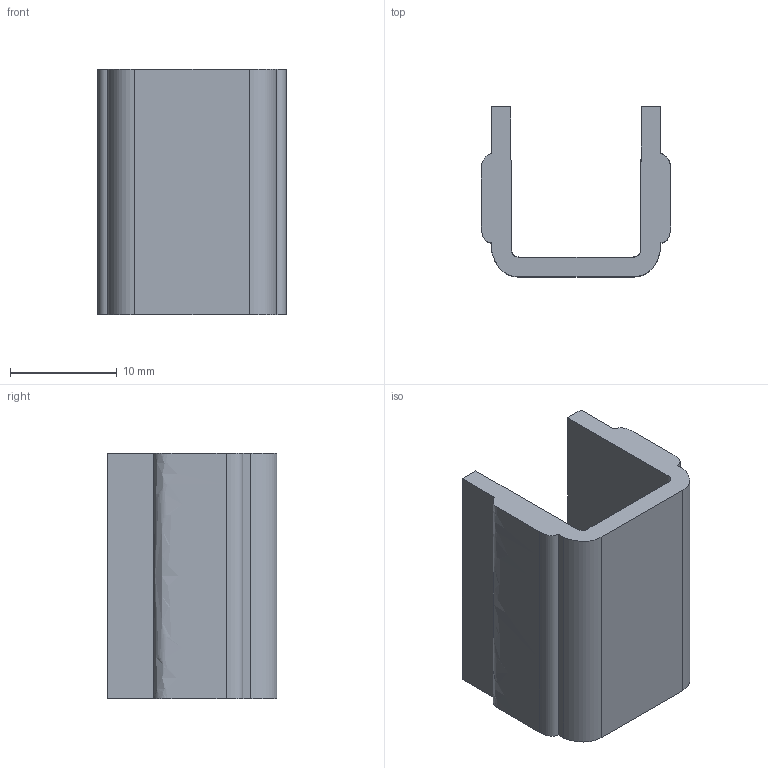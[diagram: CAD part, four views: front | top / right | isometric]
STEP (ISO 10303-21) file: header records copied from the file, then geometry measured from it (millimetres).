
FILE_DESCRIPTION(/* description */ ('STEP AP242 Edition 2','CAx-IF Rec.Pracs.---Representation and Presentation of Product Manufacturing Information (PMI)---4.0---2014-10-13','CAx-IF Rec.Pracs.---3D Tessellated Geometry---0.4---2014-09-14','2;1','CAx-IF Rec.Pracs.---User Defined Attributes---1.5---2016-08-15'),/* implementation_level */ '2;1');
FILE_NAME(/* name */ 'Part Studio 1 - Part 1',/* time_stamp */ '2026-05-27T11:51:32Z',/* author */ (''),/* organization */ (''),/* preprocessor_version */ 'ST-DEVELOPER v20',/* originating_system */ 'ONSHAPE BY PTC INC, 1.215',/* authorisation */ ' ');
FILE_SCHEMA (('AP242_MANAGED_MODEL_BASED_3D_ENGINEERING_MIM_LF { 1 0 10303 442 3 1 4 }'));
Length unit declared in the file: metre
Products named in the file (1): Part 1
Bounding box: 17.7 x 15.9 x 23 mm (x, y, z)
Volume: 2088.7 mm3; surface area: 2264.1 mm2
Topology: 1 solids, 1 shells, 18 faces, 48 edges, 32 vertices
Faces by surface type: plane 10, bspline 8
Entity records: 794 total; most frequent: CARTESIAN_POINT 375, ORIENTED_EDGE 96, DIRECTION 54, EDGE_CURVE 48, LINE 32, VECTOR 32, VERTEX_POINT 32, EDGE_LOOP 18
